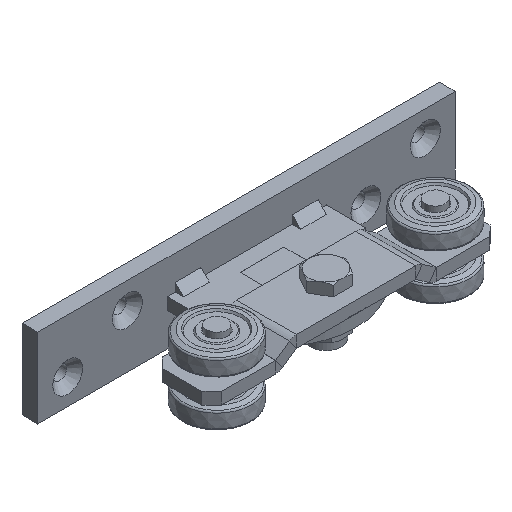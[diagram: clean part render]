
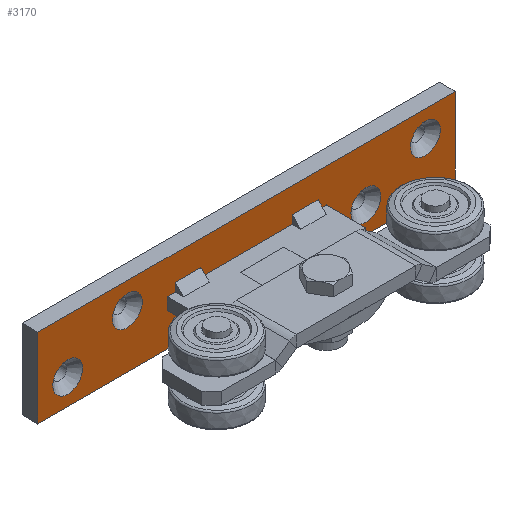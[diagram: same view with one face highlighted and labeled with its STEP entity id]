
A CAD part, isometric view. The second image highlights one B-rep face of the part: STEP entity #3170.
In plain terms, the highlighted planar face has unit normal (0, -1, 0) as drawn and (0, 0, 1) by its records, which use the part's own axes.
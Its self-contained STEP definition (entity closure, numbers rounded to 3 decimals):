
#176=FACE_BOUND('',#753,.T.);
#177=FACE_BOUND('',#754,.T.);
#178=FACE_BOUND('',#755,.T.);
#179=FACE_BOUND('',#756,.T.);
#259=CIRCLE('',#3415,7.5);
#262=CIRCLE('',#3420,7.5);
#265=CIRCLE('',#3425,7.5);
#268=CIRCLE('',#3430,7.5);
#528=FACE_OUTER_BOUND('',#752,.T.);
#752=EDGE_LOOP('',(#2530,#2531,#2532,#2533));
#753=EDGE_LOOP('',(#2534));
#754=EDGE_LOOP('',(#2535));
#755=EDGE_LOOP('',(#2536));
#756=EDGE_LOOP('',(#2537));
#1067=LINE('',#5009,#1323);
#1071=LINE('',#5016,#1327);
#1074=LINE('',#5022,#1330);
#1076=LINE('',#5025,#1332);
#1323=VECTOR('',#4085,40.);
#1327=VECTOR('',#4091,210.);
#1330=VECTOR('',#4096,40.);
#1332=VECTOR('',#4100,210.);
#1537=VERTEX_POINT('',#4971);
#1540=VERTEX_POINT('',#4979);
#1543=VERTEX_POINT('',#4987);
#1546=VERTEX_POINT('',#4995);
#1551=VERTEX_POINT('',#5006);
#1552=VERTEX_POINT('',#5008);
#1554=VERTEX_POINT('',#5014);
#1556=VERTEX_POINT('',#5020);
#1891=EDGE_CURVE('',#1537,#1537,#259,.T.);
#1894=EDGE_CURVE('',#1540,#1540,#262,.T.);
#1897=EDGE_CURVE('',#1543,#1543,#265,.T.);
#1900=EDGE_CURVE('',#1546,#1546,#268,.T.);
#1905=EDGE_CURVE('',#1551,#1552,#1067,.T.);
#1909=EDGE_CURVE('',#1554,#1551,#1071,.T.);
#1912=EDGE_CURVE('',#1556,#1554,#1074,.T.);
#1914=EDGE_CURVE('',#1552,#1556,#1076,.T.);
#2530=ORIENTED_EDGE('',*,*,#1914,.F.);
#2531=ORIENTED_EDGE('',*,*,#1905,.F.);
#2532=ORIENTED_EDGE('',*,*,#1909,.F.);
#2533=ORIENTED_EDGE('',*,*,#1912,.F.);
#2534=ORIENTED_EDGE('',*,*,#1891,.T.);
#2535=ORIENTED_EDGE('',*,*,#1894,.T.);
#2536=ORIENTED_EDGE('',*,*,#1897,.T.);
#2537=ORIENTED_EDGE('',*,*,#1900,.T.);
#3012=PLANE('',#3438);
#3170=ADVANCED_FACE('',(#528,#176,#177,#178,#179),#3012,.T.);
#3415=AXIS2_PLACEMENT_3D('',#4972,#4043,#4044);
#3420=AXIS2_PLACEMENT_3D('',#4980,#4053,#4054);
#3425=AXIS2_PLACEMENT_3D('',#4988,#4063,#4064);
#3430=AXIS2_PLACEMENT_3D('',#4996,#4073,#4074);
#3438=AXIS2_PLACEMENT_3D('',#5026,#4101,#4102);
#4043=DIRECTION('center_axis',(0.,0.,-1.));
#4044=DIRECTION('ref_axis',(1.,0.,0.));
#4053=DIRECTION('center_axis',(0.,0.,-1.));
#4054=DIRECTION('ref_axis',(1.,0.,0.));
#4063=DIRECTION('center_axis',(0.,0.,-1.));
#4064=DIRECTION('ref_axis',(1.,0.,0.));
#4073=DIRECTION('center_axis',(0.,0.,-1.));
#4074=DIRECTION('ref_axis',(1.,0.,0.));
#4085=DIRECTION('',(0.,1.,0.));
#4091=DIRECTION('',(-1.,0.,0.));
#4096=DIRECTION('',(0.,-1.,0.));
#4100=DIRECTION('',(1.,0.,0.));
#4101=DIRECTION('center_axis',(0.,0.,1.));
#4102=DIRECTION('ref_axis',(1.,0.,0.));
#4971=CARTESIAN_POINT('',(97.5,7.,0.));
#4972=CARTESIAN_POINT('Origin',(90.,7.,0.));
#4979=CARTESIAN_POINT('',(67.5,-7.,0.));
#4980=CARTESIAN_POINT('Origin',(60.,-7.,0.));
#4987=CARTESIAN_POINT('',(-52.5,7.,0.));
#4988=CARTESIAN_POINT('Origin',(-60.,7.,0.));
#4995=CARTESIAN_POINT('',(-82.5,-7.,0.));
#4996=CARTESIAN_POINT('Origin',(-90.,-7.,0.));
#5006=CARTESIAN_POINT('',(-105.,-20.,0.));
#5008=CARTESIAN_POINT('',(-105.,20.,0.));
#5009=CARTESIAN_POINT('',(-105.,-20.,0.));
#5014=CARTESIAN_POINT('',(105.,-20.,0.));
#5016=CARTESIAN_POINT('',(105.,-20.,0.));
#5020=CARTESIAN_POINT('',(105.,20.,0.));
#5022=CARTESIAN_POINT('',(105.,20.,0.));
#5025=CARTESIAN_POINT('',(-105.,20.,0.));
#5026=CARTESIAN_POINT('Origin',(0.,0.,
0.));
